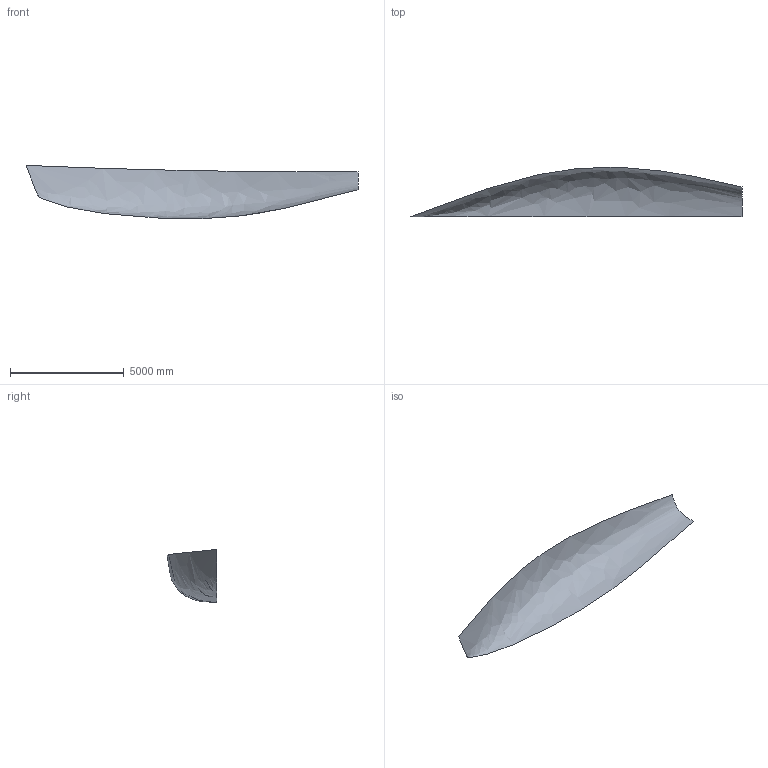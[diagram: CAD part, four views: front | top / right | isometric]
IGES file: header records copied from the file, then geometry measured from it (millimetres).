
Start section: DATA transfer to IGES file format           James R Teeters           17 Goodwin Street           Newport, RI 02840
Global section: file name: UssaM2.igs; author: Jim Teeters; organization: Newport RI; date: 951128.120000; units: metre
Bounding box: 14612.59 x 2186.51 x 2340.46 mm (x, y, z)
Surface area: 40286268.2 mm2 (no closed solid volume)
Topology: 0 solids, 0 shells, 1 faces, 4 edges, 4 vertices
Faces by surface type: bspline 1
